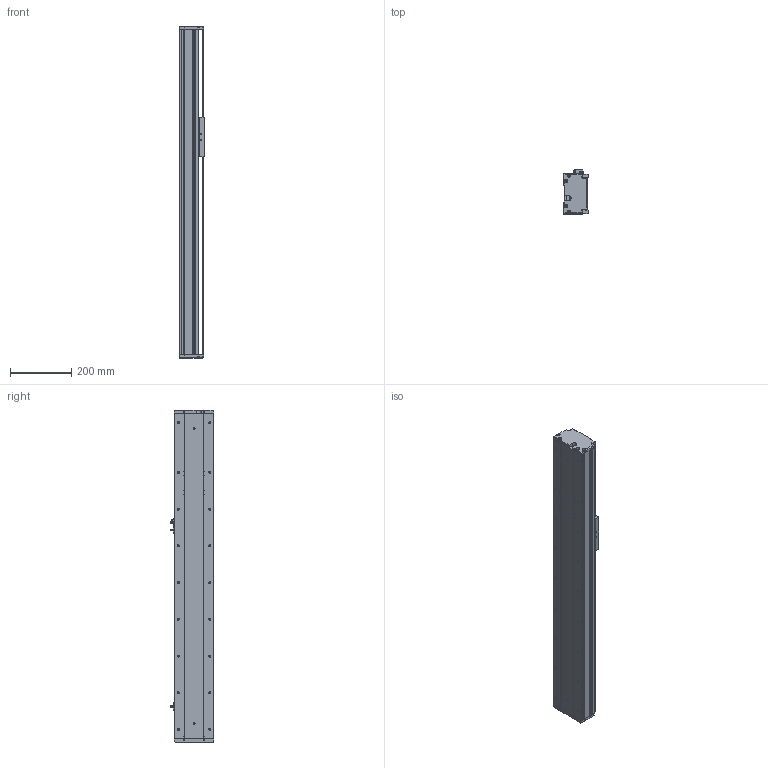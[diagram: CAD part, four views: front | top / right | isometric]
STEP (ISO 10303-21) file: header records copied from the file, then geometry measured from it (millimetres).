
FILE_DESCRIPTION (( 'STEP AP203' ), '1' );
FILE_NAME ('KSD130S-P2010-S600-M-CM.STEP', '2019-09-10T06:47:01', ( '微软用户' ), ( '微软中国' ), 'SwSTEP 2.0', 'SolidWorks 2014', '' );
FILE_SCHEMA (( 'CONFIG_CONTROL_DESIGN' ));
Length unit declared in the file: millimetre
Products named in the file (8): 130宽马达安装板半封闭-内装; KSD130S-P2010-S600-M-CM; 130宽底板半封闭丝杠内装-600行程; 130宽端盖半封闭-内装; 130宽滚珠丝杆安装板半封闭-内装-20丝杆; 130宽盖板半封闭丝杠内装-600行程; 覜茼え100遵圉猾敕; U倰嫖萇EEㄜSX672
Assembly tree (9 placements, depth 2):
  KSD130S-P2010-S600-M-CM
    130宽底板半封闭丝杠内装-600行程
    130宽端盖半封闭-内装
    130宽滚珠丝杆安装板半封闭-内装-20丝杆
    130宽盖板半封闭丝杠内装-600行程
    覜茼え100遵圉猾敕
    U倰嫖萇EEㄜSX672  x3
    130宽马达安装板半封闭-内装
Bounding box: 80 x 143.7 x 1085 mm (x, y, z)
Volume: 3305836 mm3; surface area: 1010010.3 mm2
Topology: 9 solids, 9 shells, 1083 faces, 3144 edges, 1998 vertices
Faces by surface type: cylinder 486, plane 447, cone 150
Entity records: 31380 total; most frequent: CARTESIAN_POINT 6735, DIRECTION 5078, ORIENTED_EDGE 4984, EDGE_CURVE 2492, AXIS2_PLACEMENT_3D 1845, VERTEX_POINT 1622, VECTOR 1388, LINE 1388
